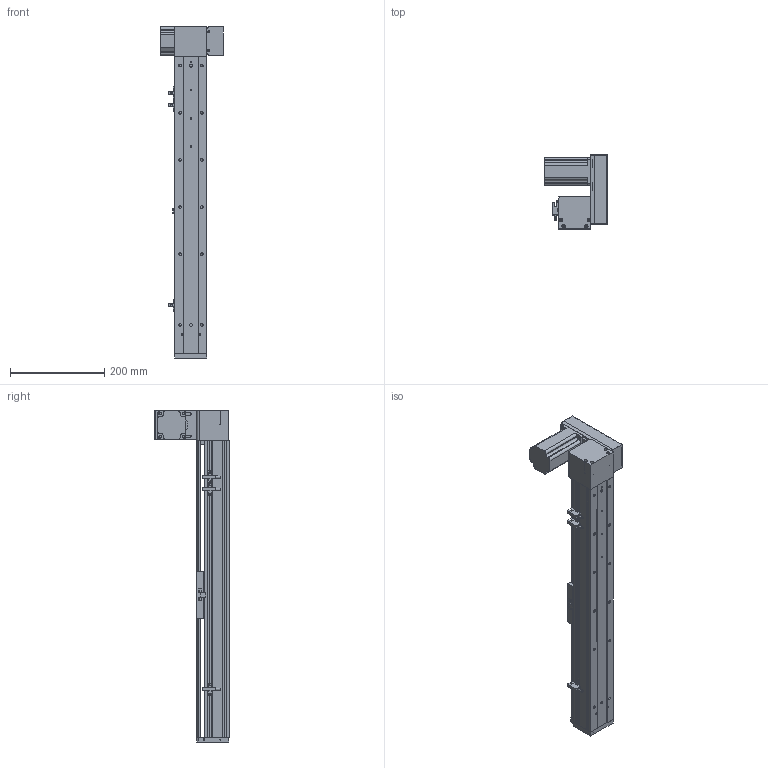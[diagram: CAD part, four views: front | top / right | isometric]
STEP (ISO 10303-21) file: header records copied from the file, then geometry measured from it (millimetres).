
FILE_DESCRIPTION (( 'STEP AP203' ), '1' );
FILE_NAME ('ML68-S450-UL.STEP', '2016-08-04T12:25:07', ( '' ), ( '' ), 'SwSTEP 2.0', 'SolidWorks 2014', '' );
FILE_SCHEMA (( 'CONFIG_CONTROL_DESIGN' ));
Length unit declared in the file: millimetre
Products named in the file (12): QS68酘衵殏萇儂啣; ML68-BR傷啣; ML68滅鳥啣盓傅輸媼; ML68傷啣; 三协电机MH201N2_預設; ML68雄赽釱; ML68奻裔^ML68-S450-UL; 60換覜結え; ML68-S450-UL; 換覜ん; ML68菁釱^ML68-S450-UL; QS68左右折电机板罩子
Assembly tree (13 placements, depth 2):
  ML68-S450-UL
    ML68菁釱^ML68-S450-UL
    ML68奻裔^ML68-S450-UL
    60換覜結え
    ML68-BR傷啣
    換覜ん  x3
    ML68傷啣
    三协电机MH201N2_預設
    ML68雄赽釱
    QS68酘衵殏萇儂啣
    QS68左右折电机板罩子
    ML68滅鳥啣盓傅輸媼
Bounding box: 133.5 x 157 x 704 mm (x, y, z)
Volume: 1488740.3 mm3; surface area: 535701.8 mm2
Topology: 13 solids, 13 shells, 885 faces, 2422 edges, 1539 vertices
Faces by surface type: cylinder 402, plane 391, cone 92
Entity records: 27978 total; most frequent: CARTESIAN_POINT 5278, DIRECTION 4588, ORIENTED_EDGE 4352, EDGE_CURVE 2176, AXIS2_PLACEMENT_3D 1653, VERTEX_POINT 1427, VECTOR 1282, LINE 1282
